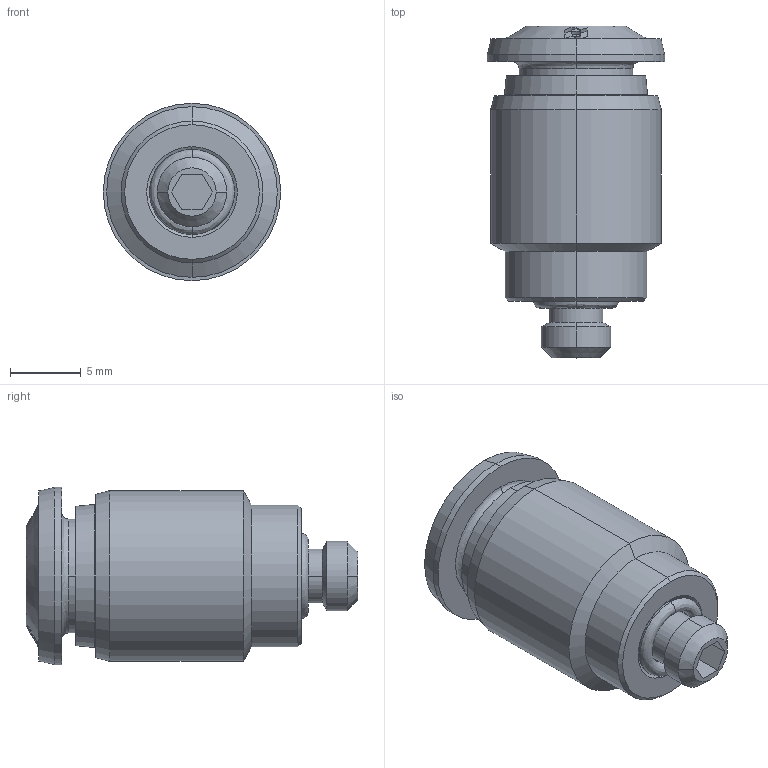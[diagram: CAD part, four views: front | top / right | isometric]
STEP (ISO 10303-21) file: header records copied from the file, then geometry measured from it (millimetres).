
FILE_DESCRIPTION (( 'STEP AP203' ), '1' );
FILE_NAME ('5001000007A.STEP', '2016-12-20T10:44:09', ( 'ST01' ), ( '' ), 'SwSTEP 2.0', 'SolidWorks 2016', '' );
FILE_SCHEMA (( 'CONFIG_CONTROL_DESIGN' ));
Length unit declared in the file: millimetre
Products named in the file (1): 5001000007A
Bounding box: 12.5 x 23.4 x 12.5 mm (x, y, z)
Volume: 1769.4 mm3; surface area: 1362.2 mm2
Topology: 1 solids, 1 shells, 135 faces, 326 edges, 206 vertices
Faces by surface type: bspline 61, cone 37, cylinder 20, plane 17
Entity records: 14905 total; most frequent: CARTESIAN_POINT 12069, ORIENTED_EDGE 652, DIRECTION 431, EDGE_CURVE 326, VERTEX_POINT 206, AXIS2_PLACEMENT_3D 157, EDGE_LOOP 148, ADVANCED_FACE 135
